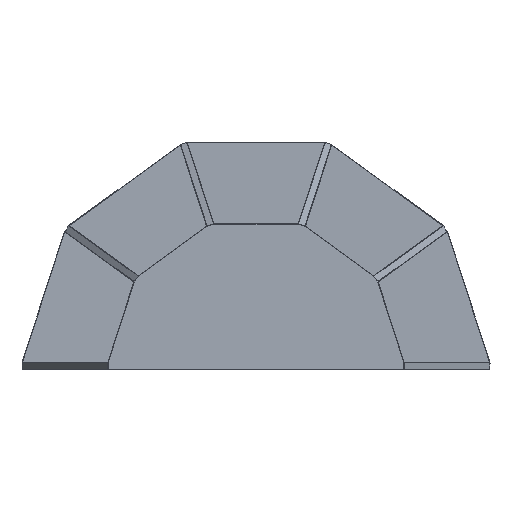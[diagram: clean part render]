
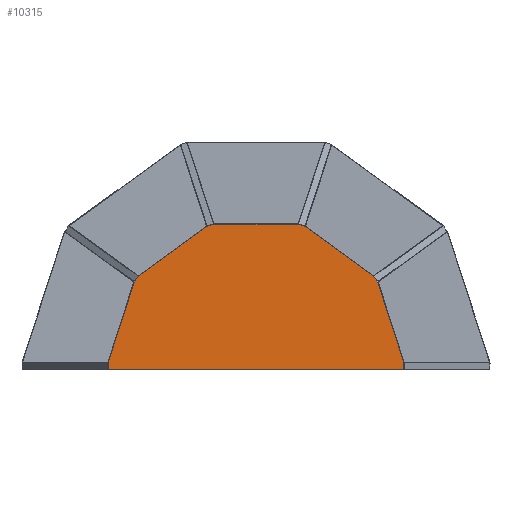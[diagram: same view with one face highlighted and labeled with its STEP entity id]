
A CAD part, front view. The second image highlights one B-rep face of the part: STEP entity #10315.
In plain terms, the highlighted planar face has unit normal (0, -1, 0).
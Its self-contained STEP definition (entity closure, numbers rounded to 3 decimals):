
#179 = DIRECTION ( 'NONE',  ( 0., 0., 1. ) ) ;
#190 = CARTESIAN_POINT ( 'NONE',  ( -274.96, 0., 89.34 ) ) ;
#297 = CARTESIAN_POINT ( 'NONE',  ( -246.361, 0., 177.36 ) ) ;
#547 = DIRECTION ( 'NONE',  ( 0., 0., -1. ) ) ;
#705 = VERTEX_POINT ( 'NONE', #3575 ) ;
#973 = VERTEX_POINT ( 'NONE', #13588 ) ;
#999 = CARTESIAN_POINT ( 'NONE',  ( 0., 0., 294.293 ) ) ;
#1172 = DIRECTION ( 'NONE',  ( -0.951, 0., 0.309 ) ) ;
#1313 = EDGE_CURVE ( 'NONE', #11147, #2436, #15778, .T. ) ;
#1521 = CARTESIAN_POINT ( 'NONE',  ( 274.96, 0., 89.34 ) ) ;
#1604 = AXIS2_PLACEMENT_3D ( 'NONE', #17290, #8685, #15945 ) ;
#1623 = DIRECTION ( 'NONE',  ( -0.309, 0., -0.951 ) ) ;
#1858 = VECTOR ( 'NONE', #3942, 1000. ) ;
#1925 = VECTOR ( 'NONE', #547, 1000. ) ;
#2003 = DIRECTION ( 'NONE',  ( -0.951, 0., -0.309 ) ) ;
#2012 = ORIENTED_EDGE ( 'NONE', *, *, #8385, .T. ) ;
#2040 = VERTEX_POINT ( 'NONE', #14279 ) ;
#2346 = ORIENTED_EDGE ( 'NONE', *, *, #9629, .T. ) ;
#2363 = CARTESIAN_POINT ( 'NONE',  ( -99.469, 0., 289.727 ) ) ;
#2436 = VERTEX_POINT ( 'NONE', #17119 ) ;
#2637 = EDGE_CURVE ( 'NONE', #973, #7785, #18053, .T. ) ;
#2780 = ORIENTED_EDGE ( 'NONE', *, *, #8246, .T. ) ;
#3392 = VECTOR ( 'NONE', #2003, 1000. ) ;
#3490 = LINE ( 'NONE', #7881, #4648 ) ;
#3575 = CARTESIAN_POINT ( 'NONE',  ( 299.151, 0., 0.707 ) ) ;
#3645 = DIRECTION ( 'NONE',  ( -0.809, 0., 0.588 ) ) ;
#3888 = EDGE_CURVE ( 'NONE', #10508, #2040, #8513, .T. ) ;
#3904 = CARTESIAN_POINT ( 'NONE',  ( -299.151, 0., 0.707 ) ) ;
#3942 = DIRECTION ( 'NONE',  ( -1., 0., 0. ) ) ;
#3983 = VECTOR ( 'NONE', #6976, 1000. ) ;
#3990 = PLANE ( 'NONE',  #1604 ) ;
#4273 = EDGE_CURVE ( 'NONE', #2436, #14462, #15938, .T. ) ;
#4648 = VECTOR ( 'NONE', #18115, 1000. ) ;
#4975 = ORIENTED_EDGE ( 'NONE', *, *, #11432, .T. ) ;
#5440 = ORIENTED_EDGE ( 'NONE', *, *, #4273, .T. ) ;
#5509 = DIRECTION ( 'NONE',  ( -0.809, 0., -0.588 ) ) ;
#5627 = CARTESIAN_POINT ( 'NONE',  ( 299.151, 0., 0. ) ) ;
#5793 = DIRECTION ( 'NONE',  ( -0.588, 0., 0.809 ) ) ;
#6447 = VECTOR ( 'NONE', #1172, 1000. ) ;
#6685 = CARTESIAN_POINT ( 'NONE',  ( 237.676, 0., 189.314 ) ) ;
#6832 = LINE ( 'NONE', #999, #1858 ) ;
#6976 = DIRECTION ( 'NONE',  ( -0.309, 0., 0.951 ) ) ;
#7415 = VECTOR ( 'NONE', #5793, 1000. ) ;
#7658 = EDGE_CURVE ( 'NONE', #2040, #10256, #7803, .T. ) ;
#7785 = VERTEX_POINT ( 'NONE', #2363 ) ;
#7803 = LINE ( 'NONE', #10664, #1925 ) ;
#7881 = CARTESIAN_POINT ( 'NONE',  ( 0., 0., 0.707 ) ) ;
#7987 = ORIENTED_EDGE ( 'NONE', *, *, #3888, .T. ) ;
#8040 = VECTOR ( 'NONE', #17525, 1000. ) ;
#8246 = EDGE_CURVE ( 'NONE', #17051, #973, #6832, .T. ) ;
#8273 = ORIENTED_EDGE ( 'NONE', *, *, #10426, .T. ) ;
#8385 = EDGE_CURVE ( 'NONE', #14735, #17051, #18661, .T. ) ;
#8393 = CARTESIAN_POINT ( 'NONE',  ( -172.139, 0., 236.929 ) ) ;
#8444 = CARTESIAN_POINT ( 'NONE',  ( 94.647, 0., 291.294 ) ) ;
#8513 = LINE ( 'NONE', #190, #8644 ) ;
#8644 = VECTOR ( 'NONE', #1623, 1000. ) ;
#8685 = DIRECTION ( 'NONE',  ( 0., 1., 0. ) ) ;
#8872 = EDGE_LOOP ( 'NONE', ( #18369, #8273, #11391, #14180, #5440, #9320, #2012, #2780, #10599, #4975, #2346, #7987 ) ) ;
#9265 = CARTESIAN_POINT ( 'NONE',  ( -94.647, 0., 291.294 ) ) ;
#9320 = ORIENTED_EDGE ( 'NONE', *, *, #18719, .T. ) ;
#9494 = CARTESIAN_POINT ( 'NONE',  ( -237.676, 0., 189.314 ) ) ;
#9629 = EDGE_CURVE ( 'NONE', #13267, #10508, #15890, .T. ) ;
#10256 = VERTEX_POINT ( 'NONE', #3904 ) ;
#10315 = ADVANCED_FACE ( 'NONE', ( #15662 ), #3990, .F. ) ;
#10426 = EDGE_CURVE ( 'NONE', #10256, #705, #3490, .T. ) ;
#10508 = VERTEX_POINT ( 'NONE', #297 ) ;
#10599 = ORIENTED_EDGE ( 'NONE', *, *, #2637, .T. ) ;
#10624 = LINE ( 'NONE', #12055, #18466 ) ;
#10664 = CARTESIAN_POINT ( 'NONE',  ( -299.151, 0., 0. ) ) ;
#10741 = VECTOR ( 'NONE', #179, 1000. ) ;
#11147 = VERTEX_POINT ( 'NONE', #13359 ) ;
#11391 = ORIENTED_EDGE ( 'NONE', *, *, #17443, .T. ) ;
#11432 = EDGE_CURVE ( 'NONE', #7785, #13267, #11437, .T. ) ;
#11437 = LINE ( 'NONE', #8393, #17152 ) ;
#11628 = CARTESIAN_POINT ( 'NONE',  ( 99.469, 0., 289.727 ) ) ;
#11686 = CARTESIAN_POINT ( 'NONE',  ( -245.585, 0., 178.428 ) ) ;
#12055 = CARTESIAN_POINT ( 'NONE',  ( 172.139, 0., 236.929 ) ) ;
#12893 = LINE ( 'NONE', #5627, #10741 ) ;
#12931 = CARTESIAN_POINT ( 'NONE',  ( 85.416, 0., 294.293 ) ) ;
#13267 = VERTEX_POINT ( 'NONE', #9494 ) ;
#13359 = CARTESIAN_POINT ( 'NONE',  ( 299.151, 0., 14.888 ) ) ;
#13588 = CARTESIAN_POINT ( 'NONE',  ( -85.416, 0., 294.293 ) ) ;
#14180 = ORIENTED_EDGE ( 'NONE', *, *, #1313, .T. ) ;
#14279 = CARTESIAN_POINT ( 'NONE',  ( -299.151, 0., 14.888 ) ) ;
#14462 = VERTEX_POINT ( 'NONE', #6685 ) ;
#14735 = VERTEX_POINT ( 'NONE', #11628 ) ;
#15662 = FACE_OUTER_BOUND ( 'NONE', #8872, .T. ) ;
#15778 = LINE ( 'NONE', #1521, #3983 ) ;
#15890 = LINE ( 'NONE', #11686, #8040 ) ;
#15938 = LINE ( 'NONE', #18801, #7415 ) ;
#15945 = DIRECTION ( 'NONE',  ( 0., 0., 1. ) ) ;
#17051 = VERTEX_POINT ( 'NONE', #12931 ) ;
#17119 = CARTESIAN_POINT ( 'NONE',  ( 246.361, 0., 177.36 ) ) ;
#17152 = VECTOR ( 'NONE', #5509, 1000. ) ;
#17290 = CARTESIAN_POINT ( 'NONE',  ( 0., 0., 0. ) ) ;
#17443 = EDGE_CURVE ( 'NONE', #705, #11147, #12893, .T. ) ;
#17525 = DIRECTION ( 'NONE',  ( -0.588, 0., -0.809 ) ) ;
#18053 = LINE ( 'NONE', #9265, #3392 ) ;
#18115 = DIRECTION ( 'NONE',  ( 1., 0., 0. ) ) ;
#18369 = ORIENTED_EDGE ( 'NONE', *, *, #7658, .T. ) ;
#18466 = VECTOR ( 'NONE', #3645, 1000. ) ;
#18661 = LINE ( 'NONE', #8444, #6447 ) ;
#18719 = EDGE_CURVE ( 'NONE', #14462, #14735, #10624, .T. ) ;
#18801 = CARTESIAN_POINT ( 'NONE',  ( 245.585, 0., 178.428 ) ) ;
